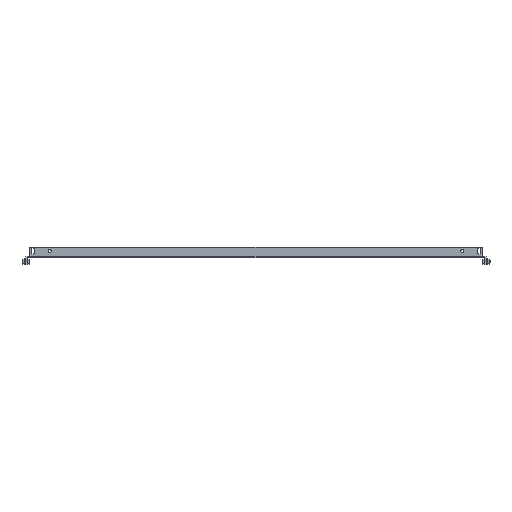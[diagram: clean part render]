
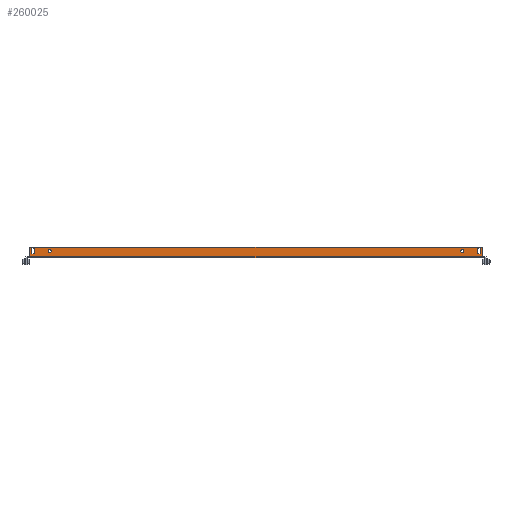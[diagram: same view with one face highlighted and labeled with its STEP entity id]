
A CAD part, front view. The second image highlights one B-rep face of the part: STEP entity #260025.
In plain terms, the highlighted planar face has unit normal (0, -1, 0).
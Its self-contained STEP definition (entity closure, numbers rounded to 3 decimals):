
#208476 = VERTEX_POINT('',#208477);
#208477 = CARTESIAN_POINT('',(541.5,-434.5,0.));
#208483 = EDGE_CURVE('',#208484,#208476,#208486,.T.);
#208484 = VERTEX_POINT('',#208485);
#208485 = CARTESIAN_POINT('',(-541.5,-434.5,0.));
#208486 = LINE('',#208487,#208488);
#208487 = CARTESIAN_POINT('',(-541.5,-434.5,0.));
#208488 = VECTOR('',#208489,1.);
#208489 = DIRECTION('',(1.,-0.,-0.));
#259904 = VERTEX_POINT('',#259905);
#259905 = CARTESIAN_POINT('',(-541.5,-434.5,3.1));
#259920 = EDGE_CURVE('',#259904,#208484,#259921,.T.);
#259921 = LINE('',#259922,#259923);
#259922 = CARTESIAN_POINT('',(-541.5,-434.5,3.1));
#259923 = VECTOR('',#259924,1.);
#259924 = DIRECTION('',(0.,0.,-1.));
#259944 = VERTEX_POINT('',#259945);
#259945 = CARTESIAN_POINT('',(541.5,-434.5,3.1));
#259951 = EDGE_CURVE('',#259944,#208476,#259952,.T.);
#259952 = LINE('',#259953,#259954);
#259953 = CARTESIAN_POINT('',(541.5,-434.5,2.5));
#259954 = VECTOR('',#259955,1.);
#259955 = DIRECTION('',(-0.,0.,-1.));
#259977 = VERTEX_POINT('',#259978);
#259978 = CARTESIAN_POINT('',(541.5,-434.5,26.));
#259984 = EDGE_CURVE('',#259944,#259977,#259985,.T.);
#259985 = LINE('',#259986,#259987);
#259986 = CARTESIAN_POINT('',(541.5,-434.5,26.));
#259987 = VECTOR('',#259988,1.);
#259988 = DIRECTION('',(0.,0.,1.));
#259999 = EDGE_CURVE('',#260000,#259904,#260002,.T.);
#260000 = VERTEX_POINT('',#260001);
#260001 = CARTESIAN_POINT('',(-541.5,-434.5,26.));
#260002 = LINE('',#260003,#260004);
#260003 = CARTESIAN_POINT('',(-541.5,-434.5,2.5));
#260004 = VECTOR('',#260005,1.);
#260005 = DIRECTION('',(0.,0.,-1.));
#260025 = ADVANCED_FACE('',(#260026,#260060,#260071,#260082,#260116),
  #260129,.F.);
#260026 = FACE_BOUND('',#260027,.T.);
#260027 = EDGE_LOOP('',(#260028,#260038,#260046,#260054));
#260028 = ORIENTED_EDGE('',*,*,#260029,.F.);
#260029 = EDGE_CURVE('',#260030,#260032,#260034,.T.);
#260030 = VERTEX_POINT('',#260031);
#260031 = CARTESIAN_POINT('',(536.,-434.5,9.5));
#260032 = VERTEX_POINT('',#260033);
#260033 = CARTESIAN_POINT('',(536.,-434.5,23.5));
#260034 = LINE('',#260035,#260036);
#260035 = CARTESIAN_POINT('',(536.,-434.5,23.5));
#260036 = VECTOR('',#260037,1.);
#260037 = DIRECTION('',(-0.,-0.,1.));
#260038 = ORIENTED_EDGE('',*,*,#260039,.F.);
#260039 = EDGE_CURVE('',#260040,#260030,#260042,.T.);
#260040 = VERTEX_POINT('',#260041);
#260041 = CARTESIAN_POINT('',(529.,-434.5,9.5));
#260042 = LINE('',#260043,#260044);
#260043 = CARTESIAN_POINT('',(536.,-434.5,9.5));
#260044 = VECTOR('',#260045,1.);
#260045 = DIRECTION('',(1.,-0.,-0.));
#260046 = ORIENTED_EDGE('',*,*,#260047,.F.);
#260047 = EDGE_CURVE('',#260048,#260040,#260050,.T.);
#260048 = VERTEX_POINT('',#260049);
#260049 = CARTESIAN_POINT('',(529.,-434.5,23.5));
#260050 = LINE('',#260051,#260052);
#260051 = CARTESIAN_POINT('',(529.,-434.5,9.5));
#260052 = VECTOR('',#260053,1.);
#260053 = DIRECTION('',(-0.,-0.,-1.));
#260054 = ORIENTED_EDGE('',*,*,#260055,.F.);
#260055 = EDGE_CURVE('',#260032,#260048,#260056,.T.);
#260056 = LINE('',#260057,#260058);
#260057 = CARTESIAN_POINT('',(529.,-434.5,23.5));
#260058 = VECTOR('',#260059,1.);
#260059 = DIRECTION('',(-1.,-0.,-0.));
#260060 = FACE_BOUND('',#260061,.T.);
#260061 = EDGE_LOOP('',(#260062));
#260062 = ORIENTED_EDGE('',*,*,#260063,.F.);
#260063 = EDGE_CURVE('',#260064,#260064,#260066,.T.);
#260064 = VERTEX_POINT('',#260065);
#260065 = CARTESIAN_POINT('',(493.,-434.5,20.));
#260066 = CIRCLE('',#260067,3.5);
#260067 = AXIS2_PLACEMENT_3D('',#260068,#260069,#260070);
#260068 = CARTESIAN_POINT('',(493.,-434.5,16.5));
#260069 = DIRECTION('',(0.,-1.,0.));
#260070 = DIRECTION('',(0.,0.,1.));
#260071 = FACE_BOUND('',#260072,.T.);
#260072 = EDGE_LOOP('',(#260073));
#260073 = ORIENTED_EDGE('',*,*,#260074,.F.);
#260074 = EDGE_CURVE('',#260075,#260075,#260077,.T.);
#260075 = VERTEX_POINT('',#260076);
#260076 = CARTESIAN_POINT('',(-493.,-434.5,13.));
#260077 = CIRCLE('',#260078,3.5);
#260078 = AXIS2_PLACEMENT_3D('',#260079,#260080,#260081);
#260079 = CARTESIAN_POINT('',(-493.,-434.5,16.5));
#260080 = DIRECTION('',(0.,-1.,0.));
#260081 = DIRECTION('',(0.,0.,-1.));
#260082 = FACE_BOUND('',#260083,.T.);
#260083 = EDGE_LOOP('',(#260084,#260094,#260102,#260110));
#260084 = ORIENTED_EDGE('',*,*,#260085,.F.);
#260085 = EDGE_CURVE('',#260086,#260088,#260090,.T.);
#260086 = VERTEX_POINT('',#260087);
#260087 = CARTESIAN_POINT('',(-536.,-434.5,23.5));
#260088 = VERTEX_POINT('',#260089);
#260089 = CARTESIAN_POINT('',(-536.,-434.5,9.5));
#260090 = LINE('',#260091,#260092);
#260091 = CARTESIAN_POINT('',(-536.,-434.5,9.5));
#260092 = VECTOR('',#260093,1.);
#260093 = DIRECTION('',(-0.,-0.,-1.));
#260094 = ORIENTED_EDGE('',*,*,#260095,.F.);
#260095 = EDGE_CURVE('',#260096,#260086,#260098,.T.);
#260096 = VERTEX_POINT('',#260097);
#260097 = CARTESIAN_POINT('',(-529.,-434.5,23.5));
#260098 = LINE('',#260099,#260100);
#260099 = CARTESIAN_POINT('',(-536.,-434.5,23.5));
#260100 = VECTOR('',#260101,1.);
#260101 = DIRECTION('',(-1.,-0.,-0.));
#260102 = ORIENTED_EDGE('',*,*,#260103,.F.);
#260103 = EDGE_CURVE('',#260104,#260096,#260106,.T.);
#260104 = VERTEX_POINT('',#260105);
#260105 = CARTESIAN_POINT('',(-529.,-434.5,9.5));
#260106 = LINE('',#260107,#260108);
#260107 = CARTESIAN_POINT('',(-529.,-434.5,23.5));
#260108 = VECTOR('',#260109,1.);
#260109 = DIRECTION('',(-0.,-0.,1.));
#260110 = ORIENTED_EDGE('',*,*,#260111,.F.);
#260111 = EDGE_CURVE('',#260088,#260104,#260112,.T.);
#260112 = LINE('',#260113,#260114);
#260113 = CARTESIAN_POINT('',(-529.,-434.5,9.5));
#260114 = VECTOR('',#260115,1.);
#260115 = DIRECTION('',(1.,-0.,-0.));
#260116 = FACE_BOUND('',#260117,.T.);
#260117 = EDGE_LOOP('',(#260118,#260119,#260120,#260121,#260122,#260123)
  );
#260118 = ORIENTED_EDGE('',*,*,#259999,.T.);
#260119 = ORIENTED_EDGE('',*,*,#259920,.T.);
#260120 = ORIENTED_EDGE('',*,*,#208483,.T.);
#260121 = ORIENTED_EDGE('',*,*,#259951,.F.);
#260122 = ORIENTED_EDGE('',*,*,#259984,.T.);
#260123 = ORIENTED_EDGE('',*,*,#260124,.T.);
#260124 = EDGE_CURVE('',#259977,#260000,#260125,.T.);
#260125 = LINE('',#260126,#260127);
#260126 = CARTESIAN_POINT('',(-541.5,-434.5,26.));
#260127 = VECTOR('',#260128,1.);
#260128 = DIRECTION('',(-1.,-0.,-0.));
#260129 = PLANE('',#260130);
#260130 = AXIS2_PLACEMENT_3D('',#260131,#260132,#260133);
#260131 = CARTESIAN_POINT('',(541.5,-434.5,2.5));
#260132 = DIRECTION('',(-0.,1.,0.));
#260133 = DIRECTION('',(0.,0.,1.));
